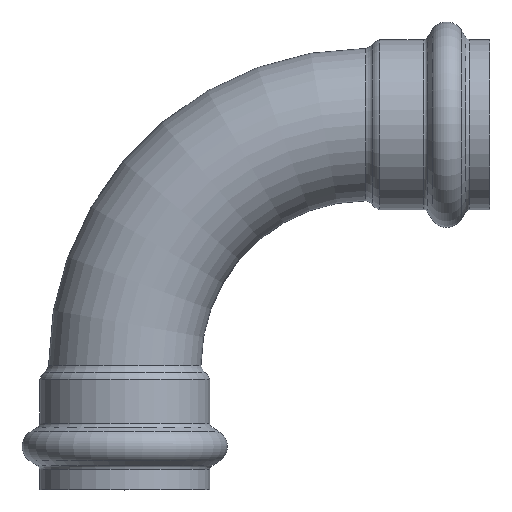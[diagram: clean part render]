
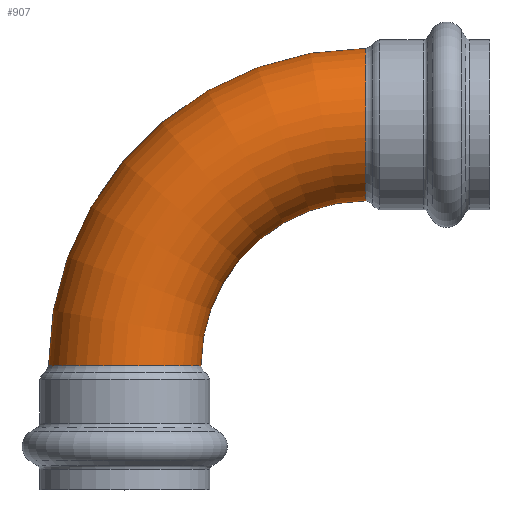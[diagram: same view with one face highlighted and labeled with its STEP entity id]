
A CAD part, top view. The second image highlights one B-rep face of the part: STEP entity #907.
In plain terms, the highlighted toroidal (fillet/blend) face has major radius 76.289 mm and minor radius 24.13 mm.
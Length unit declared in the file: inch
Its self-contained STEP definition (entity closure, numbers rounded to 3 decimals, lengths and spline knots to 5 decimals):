
#125=FACE_OUTER_BOUND('',#164,.T.);
#164=EDGE_LOOP('',(#706,#707,#708,#709,#710,#711,#712,#713));
#188=CIRCLE('',#952,0.95);
#189=CIRCLE('',#953,0.95);
#190=CIRCLE('',#954,0.95);
#241=CIRCLE('',#1022,0.95);
#242=CIRCLE('',#1023,0.95);
#246=CIRCLE('',#1027,0.95);
#256=CIRCLE('',#1041,2.0535);
#308=VERTEX_POINT('',#1496);
#309=VERTEX_POINT('',#1498);
#310=VERTEX_POINT('',#1500);
#355=VERTEX_POINT('',#1623);
#356=VERTEX_POINT('',#1624);
#357=VERTEX_POINT('',#1626);
#414=EDGE_CURVE('',#309,#308,#188,.T.);
#415=EDGE_CURVE('',#310,#309,#189,.T.);
#416=EDGE_CURVE('',#308,#310,#190,.T.);
#476=EDGE_CURVE('',#355,#356,#241,.T.);
#477=EDGE_CURVE('',#357,#355,#242,.T.);
#481=EDGE_CURVE('',#356,#357,#246,.T.);
#492=EDGE_CURVE('',#309,#356,#256,.T.);
#706=ORIENTED_EDGE('',*,*,#415,.T.);
#707=ORIENTED_EDGE('',*,*,#492,.T.);
#708=ORIENTED_EDGE('',*,*,#481,.T.);
#709=ORIENTED_EDGE('',*,*,#477,.T.);
#710=ORIENTED_EDGE('',*,*,#476,.T.);
#711=ORIENTED_EDGE('',*,*,#492,.F.);
#712=ORIENTED_EDGE('',*,*,#414,.T.);
#713=ORIENTED_EDGE('',*,*,#416,.T.);
#838=TOROIDAL_SURFACE('',#1040,3.0035,0.95);
#907=ADVANCED_FACE('',(#125),#838,.T.);
#952=AXIS2_PLACEMENT_3D('',#1499,#1136,#1137);
#953=AXIS2_PLACEMENT_3D('',#1501,#1138,#1139);
#954=AXIS2_PLACEMENT_3D('',#1502,#1140,#1141);
#1022=AXIS2_PLACEMENT_3D('',#1625,#1285,#1286);
#1023=AXIS2_PLACEMENT_3D('',#1627,#1287,#1288);
#1027=AXIS2_PLACEMENT_3D('',#1633,#1295,#1296);
#1040=AXIS2_PLACEMENT_3D('',#1654,#1322,#1323);
#1041=AXIS2_PLACEMENT_3D('',#1655,#1324,#1325);
#1136=DIRECTION('center_axis',(0.,1.,0.));
#1137=DIRECTION('ref_axis',(1.,0.,0.));
#1138=DIRECTION('center_axis',(0.,1.,0.));
#1139=DIRECTION('ref_axis',(1.,0.,0.));
#1140=DIRECTION('center_axis',(0.,1.,0.));
#1141=DIRECTION('ref_axis',(1.,0.,0.));
#1285=DIRECTION('center_axis',(-1.,0.,0.));
#1286=DIRECTION('ref_axis',(0.,-1.,0.));
#1287=DIRECTION('center_axis',(-1.,0.,0.));
#1288=DIRECTION('ref_axis',(0.,-1.,0.));
#1295=DIRECTION('center_axis',(-1.,0.,0.));
#1296=DIRECTION('ref_axis',(0.,-1.,0.));
#1322=DIRECTION('center_axis',(0.,0.,1.));
#1323=DIRECTION('ref_axis',(1.,0.,0.));
#1324=DIRECTION('center_axis',(0.,0.,-1.));
#1325=DIRECTION('ref_axis',(1.,0.,0.));
#1496=CARTESIAN_POINT('',(0.,-3.0035,-0.95));
#1498=CARTESIAN_POINT('',(0.95,-3.0035,0.));
#1499=CARTESIAN_POINT('Origin',(0.,-3.0035,0.));
#1500=CARTESIAN_POINT('',(-0.95,-3.0035,0.));
#1501=CARTESIAN_POINT('Origin',(0.,-3.0035,0.));
#1502=CARTESIAN_POINT('Origin',(0.,-3.0035,0.));
#1623=CARTESIAN_POINT('',(3.0035,0.95,0.));
#1624=CARTESIAN_POINT('',(3.0035,-0.95,0.));
#1625=CARTESIAN_POINT('Origin',(3.0035,0.,0.));
#1626=CARTESIAN_POINT('',(3.0035,0.,0.95));
#1627=CARTESIAN_POINT('Origin',(3.0035,0.,0.));
#1633=CARTESIAN_POINT('Origin',(3.0035,0.,0.));
#1654=CARTESIAN_POINT('Origin',(3.0035,-3.0035,0.));
#1655=CARTESIAN_POINT('Origin',(3.0035,-3.0035,0.));
